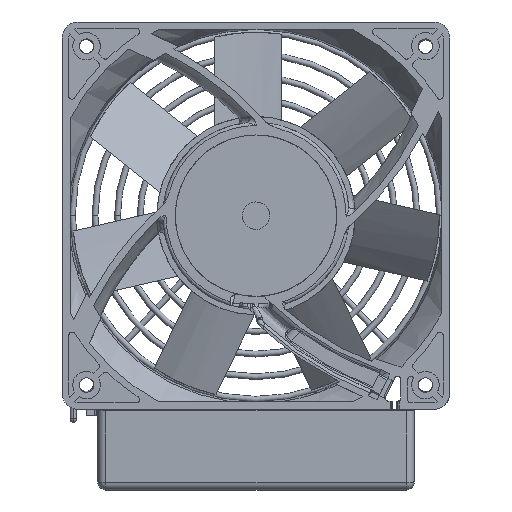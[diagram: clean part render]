
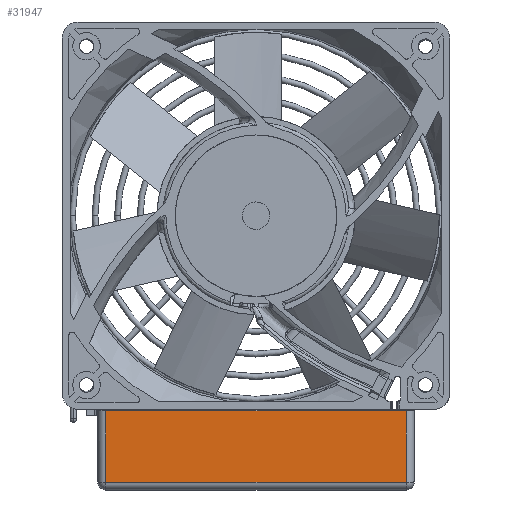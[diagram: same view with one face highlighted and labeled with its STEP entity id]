
A CAD part, front view. The second image highlights one B-rep face of the part: STEP entity #31947.
In plain terms, the highlighted planar face has unit normal (0, -1, -0.02).
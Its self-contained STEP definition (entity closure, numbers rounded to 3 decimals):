
#3829 = AXIS2_PLACEMENT_3D ( 'NONE', #13868, #13869, #13870 ) ;
#13862 = PLANE ( 'NONE',  #3829 ) ;
#13866 = FACE_OUTER_BOUND ( 'NONE', #33934, .T. ) ;
#13868 = CARTESIAN_POINT ( 'NONE',  ( -49., -18.5, 25. ) ) ;
#13869 = DIRECTION ( 'NONE',  ( 0., -1., -0.02 ) ) ;
#13870 = DIRECTION ( 'NONE',  ( 0., 0.02, -1. ) ) ;
#16821 = CARTESIAN_POINT ( 'NONE',  ( 46.5, -18.49, 24.49 ) ) ;
#16823 = CARTESIAN_POINT ( 'NONE',  ( 46.5, -18.049, 2.45 ) ) ;
#16827 = CARTESIAN_POINT ( 'NONE',  ( -46.5, -18.49, 24.49 ) ) ;
#16828 = CARTESIAN_POINT ( 'NONE',  ( -46.5, -18.049, 2.45 ) ) ;
#19968 = VECTOR ( 'NONE', #23173, 1000. ) ;
#19970 = VECTOR ( 'NONE', #23171, 1000. ) ;
#19976 = VECTOR ( 'NONE', #23176, 1000. ) ;
#19978 = VECTOR ( 'NONE', #23179, 1000. ) ;
#23157 = CARTESIAN_POINT ( 'NONE',  ( 46.5, -18.5, 25. ) ) ;
#23162 = LINE ( 'NONE', #23157, #19970 ) ;
#23166 = LINE ( 'NONE', #23172, #19968 ) ;
#23171 = DIRECTION ( 'NONE',  ( 0., -0.02, 1. ) ) ;
#23172 = CARTESIAN_POINT ( 'NONE',  ( -49., -18.49, 24.49 ) ) ;
#23173 = DIRECTION ( 'NONE',  ( -1., 0., 0. ) ) ;
#23174 = LINE ( 'NONE', #23175, #19976 ) ;
#23175 = CARTESIAN_POINT ( 'NONE',  ( -46.5, -18., 0. ) ) ;
#23176 = DIRECTION ( 'NONE',  ( 0., 0.02, -1. ) ) ;
#23177 = LINE ( 'NONE', #23178, #19978 ) ;
#23178 = CARTESIAN_POINT ( 'NONE',  ( 49., -18.049, 2.45 ) ) ;
#23179 = DIRECTION ( 'NONE',  ( 1., 0., 0. ) ) ;
#31947 = ADVANCED_FACE ( 'NONE', ( #13866 ), #13862, .T. ) ;
#33283 = ORIENTED_EDGE ( 'NONE', *, *, #61205, .T. ) ;
#33321 = ORIENTED_EDGE ( 'NONE', *, *, #61207, .T. ) ;
#33337 = ORIENTED_EDGE ( 'NONE', *, *, #61206, .T. ) ;
#33341 = ORIENTED_EDGE ( 'NONE', *, *, #61204, .T. ) ;
#33934 = EDGE_LOOP ( 'NONE', ( #33341, #33283, #33337, #33321 ) ) ;
#49748 = VERTEX_POINT ( 'NONE', #16821 ) ;
#49750 = VERTEX_POINT ( 'NONE', #16823 ) ;
#49754 = VERTEX_POINT ( 'NONE', #16827 ) ;
#49755 = VERTEX_POINT ( 'NONE', #16828 ) ;
#61204 = EDGE_CURVE ( 'NONE', #49750, #49748, #23162, .T. ) ;
#61205 = EDGE_CURVE ( 'NONE', #49748, #49754, #23166, .T. ) ;
#61206 = EDGE_CURVE ( 'NONE', #49754, #49755, #23174, .T. ) ;
#61207 = EDGE_CURVE ( 'NONE', #49755, #49750, #23177, .T. ) ;
